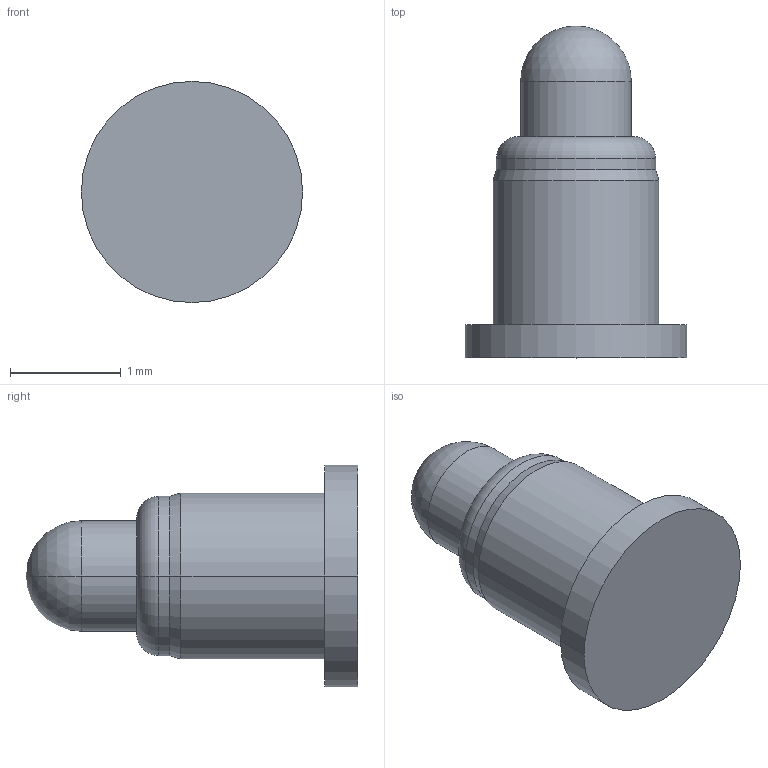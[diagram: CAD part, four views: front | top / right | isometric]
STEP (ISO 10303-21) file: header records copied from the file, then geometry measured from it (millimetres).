
FILE_DESCRIPTION((''),'2;1');
FILE_NAME('NC3008-01RA','2022-05-18T19:34:54',('Administrator'),(''),'CREO PARAMETRIC BY PTC INC, 2018400','CREO PARAMETRIC BY PTC INC, 2018400','');
FILE_SCHEMA(('CONFIG_CONTROL_DESIGN'));
Length unit declared in the file: millimetre
Products named in the file (1): NC3008-01RA
Bounding box: 2 x 3 x 2 mm (x, y, z)
Volume: 4.5 mm3; surface area: 17.9 mm2
Topology: 1 solids, 1 shells, 17 faces, 34 edges, 19 vertices
Faces by surface type: cylinder 8, plane 3, cone 2, torus 2, sphere 2
Entity records: 470 total; most frequent: DIRECTION 88, CARTESIAN_POINT 68, ORIENTED_EDGE 64, AXIS2_PLACEMENT_3D 39, EDGE_CURVE 32, CIRCLE 22, VERTEX_POINT 19, EDGE_LOOP 19
